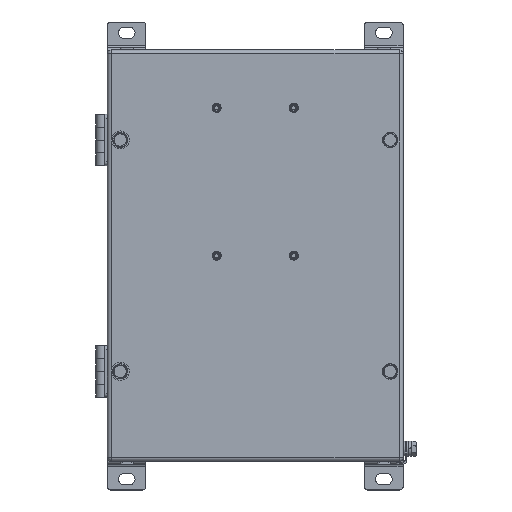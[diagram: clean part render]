
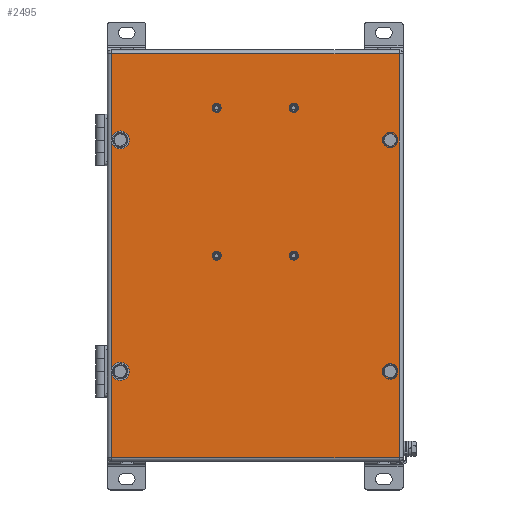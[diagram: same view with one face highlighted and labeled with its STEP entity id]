
A CAD part, top view. The second image highlights one B-rep face of the part: STEP entity #2495.
In plain terms, the highlighted planar face has unit normal (0, 0, 1).
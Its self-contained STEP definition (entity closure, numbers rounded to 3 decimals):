
#1925=CARTESIAN_POINT('',(112.,-157.0,120.));
#1926=VERTEX_POINT('',#1925);
#1992=CARTESIAN_POINT('',(112.0,157.,120.));
#1993=VERTEX_POINT('',#1992);
#2059=CARTESIAN_POINT('',(-112.,-157.0,120.));
#2060=VERTEX_POINT('',#2059);
#2132=CARTESIAN_POINT('',(112.,-157.0,120.));
#2133=DIRECTION('',(-1.0,0.0,0.0));
#2134=VECTOR('',#2133,224.);
#2135=LINE('',#2132,#2134);
#2136=EDGE_CURVE('',#1926,#2060,#2135,.T.);
#2148=CARTESIAN_POINT('',(-112.,157.,120.));
#2149=VERTEX_POINT('',#2148);
#2221=CARTESIAN_POINT('',(-112.,-157.0,120.));
#2222=DIRECTION('',(0.0,1.0,0.0));
#2223=VECTOR('',#2222,314.0);
#2224=LINE('',#2221,#2223);
#2225=EDGE_CURVE('',#2060,#2149,#2224,.T.);
#2243=CARTESIAN_POINT('',(-112.,157.,120.));
#2244=DIRECTION('',(1.0,0.0,0.0));
#2245=VECTOR('',#2244,224.);
#2246=LINE('',#2243,#2245);
#2247=EDGE_CURVE('',#2149,#1993,#2246,.T.);
#2265=CARTESIAN_POINT('',(112.,157.,120.));
#2266=DIRECTION('',(0.0,-1.0,0.0));
#2267=VECTOR('',#2266,314.0);
#2268=LINE('',#2265,#2267);
#2269=EDGE_CURVE('',#1993,#1926,#2268,.T.);
#2396=CARTESIAN_POINT('',(0.,0.,120.));
#2397=DIRECTION('',(0.0,0.0,1.0));
#2398=DIRECTION('',(1.0,0.0,0.0));
#2399=AXIS2_PLACEMENT_3D('',#2396,#2397,#2398);
#2400=PLANE('',#2399);
#2401=ORIENTED_EDGE('',*,*,#2136,.F.);
#2402=ORIENTED_EDGE('',*,*,#2269,.F.);
#2403=ORIENTED_EDGE('',*,*,#2247,.F.);
#2404=ORIENTED_EDGE('',*,*,#2225,.F.);
#2405=EDGE_LOOP('',(#2401,#2402,#2403,#2404));
#2406=FACE_OUTER_BOUND('',#2405,.T.);
#2407=CARTESIAN_POINT('',(-101.25,90.,120.));
#2408=VERTEX_POINT('',#2407);
#2409=CARTESIAN_POINT('',(-105.,90.,120.));
#2410=DIRECTION('',(0.0,0.0,-1.0));
#2411=DIRECTION('',(-1.0,0.0,0.0));
#2412=AXIS2_PLACEMENT_3D('',#2409,#2410,#2411);
#2413=CIRCLE('',#2412,3.75);
#2414=EDGE_CURVE('',#2408,#2408,#2413,.T.);
#2415=ORIENTED_EDGE('',*,*,#2414,.T.);
#2416=EDGE_LOOP('',(#2415));
#2417=FACE_BOUND('',#2416,.T.);
#2418=CARTESIAN_POINT('',(108.75,90.0,120.));
#2419=VERTEX_POINT('',#2418);
#2420=CARTESIAN_POINT('',(105.,90.0,120.));
#2421=DIRECTION('',(0.0,0.0,-1.0));
#2422=DIRECTION('',(-1.0,0.0,0.0));
#2423=AXIS2_PLACEMENT_3D('',#2420,#2421,#2422);
#2424=CIRCLE('',#2423,3.75);
#2425=EDGE_CURVE('',#2419,#2419,#2424,.T.);
#2426=ORIENTED_EDGE('',*,*,#2425,.T.);
#2427=EDGE_LOOP('',(#2426));
#2428=FACE_BOUND('',#2427,.T.);
#2429=CARTESIAN_POINT('',(-101.25,-90.,120.));
#2430=VERTEX_POINT('',#2429);
#2431=CARTESIAN_POINT('',(-105.,-90.,120.));
#2432=DIRECTION('',(0.0,0.0,-1.0));
#2433=DIRECTION('',(-1.0,0.0,0.0));
#2434=AXIS2_PLACEMENT_3D('',#2431,#2432,#2433);
#2435=CIRCLE('',#2434,3.75);
#2436=EDGE_CURVE('',#2430,#2430,#2435,.T.);
#2437=ORIENTED_EDGE('',*,*,#2436,.T.);
#2438=EDGE_LOOP('',(#2437));
#2439=FACE_BOUND('',#2438,.T.);
#2440=CARTESIAN_POINT('',(108.75,-90.0,120.));
#2441=VERTEX_POINT('',#2440);
#2442=CARTESIAN_POINT('',(105.,-90.0,120.));
#2443=DIRECTION('',(0.0,0.0,-1.0));
#2444=DIRECTION('',(-1.0,0.0,0.0));
#2445=AXIS2_PLACEMENT_3D('',#2442,#2443,#2444);
#2446=CIRCLE('',#2445,3.75);
#2447=EDGE_CURVE('',#2441,#2441,#2446,.T.);
#2448=ORIENTED_EDGE('',*,*,#2447,.T.);
#2449=EDGE_LOOP('',(#2448));
#2450=FACE_BOUND('',#2449,.T.);
#2451=CARTESIAN_POINT('',(33.05,115.,120.));
#2452=VERTEX_POINT('',#2451);
#2453=CARTESIAN_POINT('',(30.,115.,120.));
#2454=DIRECTION('',(0.0,0.0,-1.0));
#2455=DIRECTION('',(-1.0,0.0,0.0));
#2456=AXIS2_PLACEMENT_3D('',#2453,#2454,#2455);
#2457=CIRCLE('',#2456,3.05);
#2458=EDGE_CURVE('',#2452,#2452,#2457,.T.);
#2459=ORIENTED_EDGE('',*,*,#2458,.T.);
#2460=EDGE_LOOP('',(#2459));
#2461=FACE_BOUND('',#2460,.T.);
#2462=CARTESIAN_POINT('',(-26.95,115.,120.));
#2463=VERTEX_POINT('',#2462);
#2464=CARTESIAN_POINT('',(-30.,115.,120.));
#2465=DIRECTION('',(0.0,0.0,-1.0));
#2466=DIRECTION('',(-1.0,0.0,0.0));
#2467=AXIS2_PLACEMENT_3D('',#2464,#2465,#2466);
#2468=CIRCLE('',#2467,3.05);
#2469=EDGE_CURVE('',#2463,#2463,#2468,.T.);
#2470=ORIENTED_EDGE('',*,*,#2469,.T.);
#2471=EDGE_LOOP('',(#2470));
#2472=FACE_BOUND('',#2471,.T.);
#2473=CARTESIAN_POINT('',(-26.95,0.,120.));
#2474=VERTEX_POINT('',#2473);
#2475=CARTESIAN_POINT('',(-30.,0.,120.));
#2476=DIRECTION('',(0.0,0.0,-1.0));
#2477=DIRECTION('',(-1.0,0.0,0.0));
#2478=AXIS2_PLACEMENT_3D('',#2475,#2476,#2477);
#2479=CIRCLE('',#2478,3.05);
#2480=EDGE_CURVE('',#2474,#2474,#2479,.T.);
#2481=ORIENTED_EDGE('',*,*,#2480,.T.);
#2482=EDGE_LOOP('',(#2481));
#2483=FACE_BOUND('',#2482,.T.);
#2484=CARTESIAN_POINT('',(33.05,0.,120.));
#2485=VERTEX_POINT('',#2484);
#2486=CARTESIAN_POINT('',(30.,0.,120.));
#2487=DIRECTION('',(0.0,0.0,-1.0));
#2488=DIRECTION('',(-1.0,0.0,0.0));
#2489=AXIS2_PLACEMENT_3D('',#2486,#2487,#2488);
#2490=CIRCLE('',#2489,3.05);
#2491=EDGE_CURVE('',#2485,#2485,#2490,.T.);
#2492=ORIENTED_EDGE('',*,*,#2491,.T.);
#2493=EDGE_LOOP('',(#2492));
#2494=FACE_BOUND('',#2493,.T.);
#2495=ADVANCED_FACE('',(#2406,#2417,#2428,#2439,#2450,#2461,#2472,#2483,#2494),#2400,.T.);
